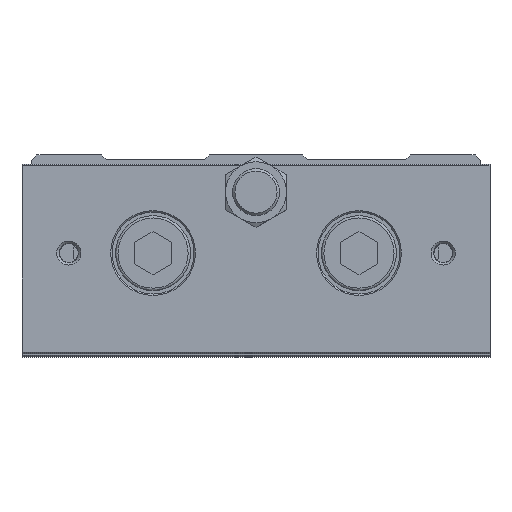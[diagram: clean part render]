
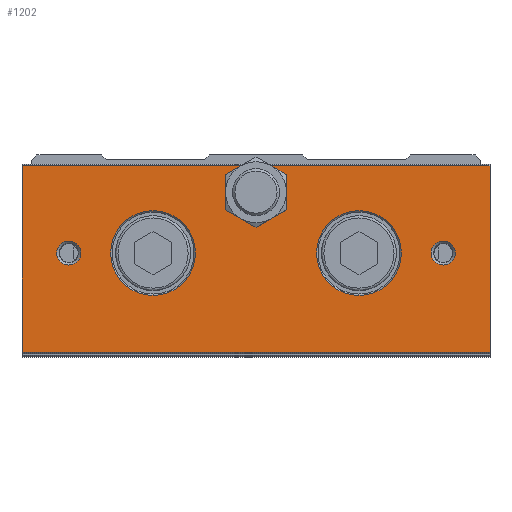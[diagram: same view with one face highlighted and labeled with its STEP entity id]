
A CAD part, top view. The second image highlights one B-rep face of the part: STEP entity #1202.
In plain terms, the highlighted planar face has unit normal (0, 0, 1).
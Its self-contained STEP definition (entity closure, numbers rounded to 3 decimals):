
#1044=CARTESIAN_POINT('',(42.567,-0.75,237.5));
#1045=VERTEX_POINT('',#1044);
#1046=CARTESIAN_POINT('',(40.0,-0.75,237.5));
#1047=DIRECTION('',(0.0,0.0,1.0));
#1048=DIRECTION('',(-1.0,0.0,0.0));
#1049=AXIS2_PLACEMENT_3D('',#1046,#1047,#1048);
#1050=CIRCLE('',#1049,2.567);
#1051=EDGE_CURVE('',#1045,#1045,#1050,.T.);
#1056=CARTESIAN_POINT('',(0.0,-22.25,237.5));
#1057=DIRECTION('',(0.0,0.0,1.0));
#1058=DIRECTION('',(1.0,0.0,0.0));
#1059=AXIS2_PLACEMENT_3D('',#1056,#1057,#1058);
#1060=PLANE('',#1059);
#1061=CARTESIAN_POINT('',(50.0,-21.95,237.5));
#1062=VERTEX_POINT('',#1061);
#1063=CARTESIAN_POINT('',(-50.0,-21.95,237.5));
#1064=VERTEX_POINT('',#1063);
#1065=CARTESIAN_POINT('',(50.0,-21.95,237.5));
#1066=DIRECTION('',(-1.0,0.0,0.0));
#1067=VECTOR('',#1066,100.0);
#1068=LINE('',#1065,#1067);
#1069=EDGE_CURVE('',#1062,#1064,#1068,.T.);
#1070=ORIENTED_EDGE('',*,*,#1069,.F.);
#1071=CARTESIAN_POINT('',(50.0,17.95,237.5));
#1072=VERTEX_POINT('',#1071);
#1073=CARTESIAN_POINT('',(50.0,-21.95,237.5));
#1074=DIRECTION('',(0.0,1.0,0.0));
#1075=VECTOR('',#1074,39.9);
#1076=LINE('',#1073,#1075);
#1077=EDGE_CURVE('',#1062,#1072,#1076,.T.);
#1078=ORIENTED_EDGE('',*,*,#1077,.T.);
#1079=CARTESIAN_POINT('',(3.124,17.95,237.5));
#1080=VERTEX_POINT('',#1079);
#1081=CARTESIAN_POINT('',(3.124,17.95,237.5));
#1082=DIRECTION('',(1.0,0.0,0.0));
#1083=VECTOR('',#1082,46.876);
#1084=LINE('',#1081,#1083);
#1085=EDGE_CURVE('',#1080,#1072,#1084,.T.);
#1086=ORIENTED_EDGE('',*,*,#1085,.F.);
#1087=CARTESIAN_POINT('',(3.25,17.879,237.5));
#1088=VERTEX_POINT('',#1087);
#1089=CARTESIAN_POINT('',(0.0,12.25,237.5));
#1090=DIRECTION('',(0.0,0.0,1.0));
#1091=DIRECTION('',(0.0,1.0,0.0));
#1092=AXIS2_PLACEMENT_3D('',#1089,#1090,#1091);
#1093=CIRCLE('',#1092,6.5);
#1094=EDGE_CURVE('',#1088,#1080,#1093,.T.);
#1095=ORIENTED_EDGE('',*,*,#1094,.F.);
#1096=CARTESIAN_POINT('',(6.5,12.25,237.5));
#1097=VERTEX_POINT('',#1096);
#1098=CARTESIAN_POINT('',(0.0,12.25,237.5));
#1099=DIRECTION('',(0.0,0.0,1.0));
#1100=DIRECTION('',(0.0,1.0,0.0));
#1101=AXIS2_PLACEMENT_3D('',#1098,#1099,#1100);
#1102=CIRCLE('',#1101,6.5);
#1103=EDGE_CURVE('',#1097,#1088,#1102,.T.);
#1104=ORIENTED_EDGE('',*,*,#1103,.F.);
#1105=CARTESIAN_POINT('',(3.25,6.621,237.5));
#1106=VERTEX_POINT('',#1105);
#1107=CARTESIAN_POINT('',(0.0,12.25,237.5));
#1108=DIRECTION('',(0.0,0.0,1.0));
#1109=DIRECTION('',(0.0,1.0,0.0));
#1110=AXIS2_PLACEMENT_3D('',#1107,#1108,#1109);
#1111=CIRCLE('',#1110,6.5);
#1112=EDGE_CURVE('',#1106,#1097,#1111,.T.);
#1113=ORIENTED_EDGE('',*,*,#1112,.F.);
#1114=CARTESIAN_POINT('',(-3.25,6.621,237.5));
#1115=VERTEX_POINT('',#1114);
#1116=CARTESIAN_POINT('',(0.0,12.25,237.5));
#1117=DIRECTION('',(0.0,0.0,1.0));
#1118=DIRECTION('',(0.0,1.0,0.0));
#1119=AXIS2_PLACEMENT_3D('',#1116,#1117,#1118);
#1120=CIRCLE('',#1119,6.5);
#1121=EDGE_CURVE('',#1115,#1106,#1120,.T.);
#1122=ORIENTED_EDGE('',*,*,#1121,.F.);
#1123=CARTESIAN_POINT('',(-6.5,12.25,237.5));
#1124=VERTEX_POINT('',#1123);
#1125=CARTESIAN_POINT('',(0.0,12.25,237.5));
#1126=DIRECTION('',(0.0,0.0,1.0));
#1127=DIRECTION('',(0.0,1.0,0.0));
#1128=AXIS2_PLACEMENT_3D('',#1125,#1126,#1127);
#1129=CIRCLE('',#1128,6.5);
#1130=EDGE_CURVE('',#1124,#1115,#1129,.T.);
#1131=ORIENTED_EDGE('',*,*,#1130,.F.);
#1132=CARTESIAN_POINT('',(-3.25,17.879,237.5));
#1133=VERTEX_POINT('',#1132);
#1134=CARTESIAN_POINT('',(0.0,12.25,237.5));
#1135=DIRECTION('',(0.0,0.0,1.0));
#1136=DIRECTION('',(0.0,1.0,0.0));
#1137=AXIS2_PLACEMENT_3D('',#1134,#1135,#1136);
#1138=CIRCLE('',#1137,6.5);
#1139=EDGE_CURVE('',#1133,#1124,#1138,.T.);
#1140=ORIENTED_EDGE('',*,*,#1139,.F.);
#1141=CARTESIAN_POINT('',(-3.124,17.95,237.5));
#1142=VERTEX_POINT('',#1141);
#1143=CARTESIAN_POINT('',(0.0,12.25,237.5));
#1144=DIRECTION('',(0.0,0.0,1.0));
#1145=DIRECTION('',(0.0,1.0,0.0));
#1146=AXIS2_PLACEMENT_3D('',#1143,#1144,#1145);
#1147=CIRCLE('',#1146,6.5);
#1148=EDGE_CURVE('',#1142,#1133,#1147,.T.);
#1149=ORIENTED_EDGE('',*,*,#1148,.F.);
#1150=CARTESIAN_POINT('',(-50.0,17.95,237.5));
#1151=VERTEX_POINT('',#1150);
#1152=CARTESIAN_POINT('',(-50.0,17.95,237.5));
#1153=DIRECTION('',(1.0,0.0,0.0));
#1154=VECTOR('',#1153,46.876);
#1155=LINE('',#1152,#1154);
#1156=EDGE_CURVE('',#1151,#1142,#1155,.T.);
#1157=ORIENTED_EDGE('',*,*,#1156,.F.);
#1158=CARTESIAN_POINT('',(-50.0,17.95,237.5));
#1159=DIRECTION('',(0.0,-1.0,0.0));
#1160=VECTOR('',#1159,39.9);
#1161=LINE('',#1158,#1160);
#1162=EDGE_CURVE('',#1151,#1064,#1161,.T.);
#1163=ORIENTED_EDGE('',*,*,#1162,.T.);
#1164=EDGE_LOOP('',(#1070,#1078,#1086,#1095,#1104,#1113,#1122,#1131,#1140,#1149,#1157,#1163));
#1165=FACE_OUTER_BOUND('',#1164,.T.);
#1166=CARTESIAN_POINT('',(-37.433,-0.75,237.5));
#1167=VERTEX_POINT('',#1166);
#1168=CARTESIAN_POINT('',(-40.0,-0.75,237.5));
#1169=DIRECTION('',(0.0,0.0,1.0));
#1170=DIRECTION('',(-1.0,0.0,0.0));
#1171=AXIS2_PLACEMENT_3D('',#1168,#1169,#1170);
#1172=CIRCLE('',#1171,2.567);
#1173=EDGE_CURVE('',#1167,#1167,#1172,.T.);
#1174=ORIENTED_EDGE('',*,*,#1173,.F.);
#1175=EDGE_LOOP('',(#1174));
#1176=FACE_BOUND('',#1175,.T.);
#1177=CARTESIAN_POINT('',(-12.95,-0.75,237.5));
#1178=VERTEX_POINT('',#1177);
#1179=CARTESIAN_POINT('',(-22.0,-0.75,237.5));
#1180=DIRECTION('',(0.0,0.0,1.0));
#1181=DIRECTION('',(-1.0,0.0,0.0));
#1182=AXIS2_PLACEMENT_3D('',#1179,#1180,#1181);
#1183=CIRCLE('',#1182,9.05);
#1184=EDGE_CURVE('',#1178,#1178,#1183,.T.);
#1185=ORIENTED_EDGE('',*,*,#1184,.F.);
#1186=EDGE_LOOP('',(#1185));
#1187=FACE_BOUND('',#1186,.T.);
#1188=CARTESIAN_POINT('',(31.05,-0.75,237.5));
#1189=VERTEX_POINT('',#1188);
#1190=CARTESIAN_POINT('',(22.0,-0.75,237.5));
#1191=DIRECTION('',(0.0,0.0,1.0));
#1192=DIRECTION('',(-1.0,0.0,0.0));
#1193=AXIS2_PLACEMENT_3D('',#1190,#1191,#1192);
#1194=CIRCLE('',#1193,9.05);
#1195=EDGE_CURVE('',#1189,#1189,#1194,.T.);
#1196=ORIENTED_EDGE('',*,*,#1195,.F.);
#1197=EDGE_LOOP('',(#1196));
#1198=FACE_BOUND('',#1197,.T.);
#1199=ORIENTED_EDGE('',*,*,#1051,.F.);
#1200=EDGE_LOOP('',(#1199));
#1201=FACE_BOUND('',#1200,.T.);
#1202=ADVANCED_FACE('',(#1165,#1176,#1187,#1198,#1201),#1060,.T.);
